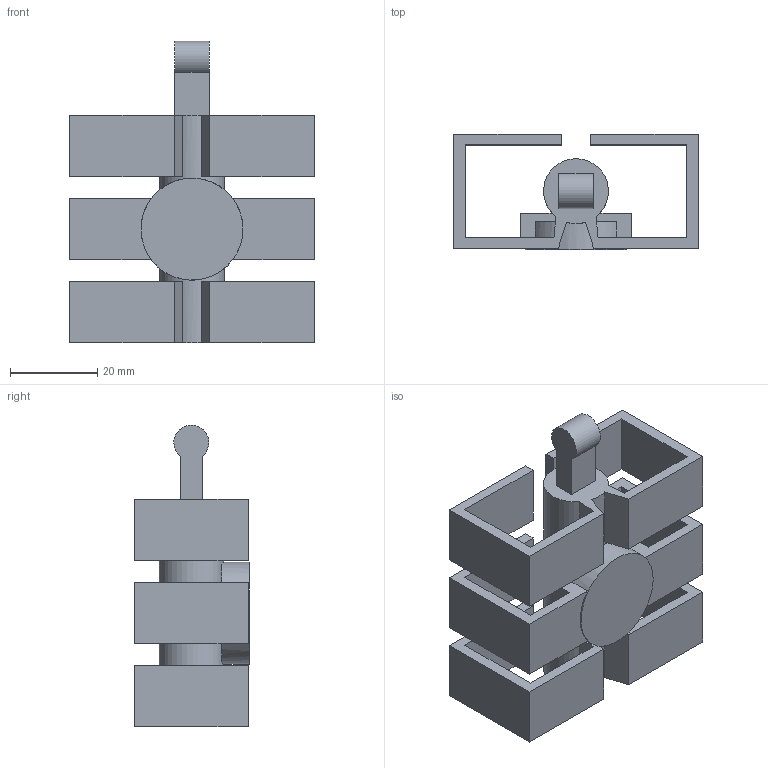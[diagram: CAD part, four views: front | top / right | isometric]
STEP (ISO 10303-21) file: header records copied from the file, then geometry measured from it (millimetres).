
FILE_DESCRIPTION( ( 'STEP AP214' ), '1' );
FILE_NAME( 'C:/Users/KOSH/Desktop/New folder/2021/Actiforce/Export/9309815.stp', '2021-12-03T09:53:40', ( '' ), ( '' ), ' ', 'PARTsolutions', ' ' );
FILE_SCHEMA( ( 'AUTOMOTIVE_DESIGN { 1 0 10303 214 1 1 1 1 }' ) );
Length unit declared in the file: millimetre
Products named in the file (1): _9309815
Bounding box: 55.99 x 26.3 x 68.99 mm (x, y, z)
Volume: 27661 mm3; surface area: 18242.4 mm2
Topology: 1 solids, 1 shells, 76 faces, 217 edges, 144 vertices
Faces by surface type: plane 73, cylinder 3
Full cylindrical faces by diameter (mm): 14.825 x1, 23.317 x1
Entity records: 3046 total; most frequent: CARTESIAN_POINT 451, ORIENTED_EDGE 422, DIRECTION 384, EDGE_CURVE 211, LINE 188, VECTOR 188, VERTEX_POINT 141, AXIS2_PLACEMENT_3D 98
